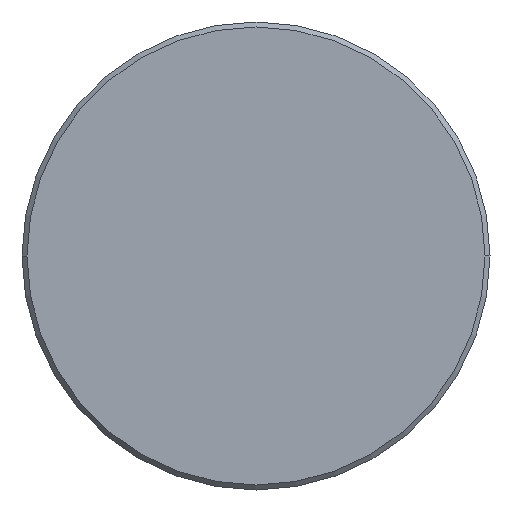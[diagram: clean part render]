
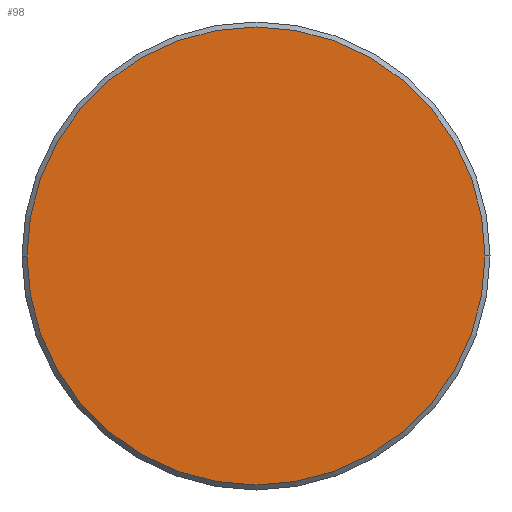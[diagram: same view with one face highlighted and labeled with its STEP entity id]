
A CAD part, left-side view. The second image highlights one B-rep face of the part: STEP entity #98.
In plain terms, the highlighted planar face has unit normal (-1, 0, 0).
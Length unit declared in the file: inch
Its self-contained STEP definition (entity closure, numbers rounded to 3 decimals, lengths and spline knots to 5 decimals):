
#17 = EDGE_CURVE ( 'NONE', #281, #277, #132, .T. ) ;
#42 = CARTESIAN_POINT ( 'NONE',  ( 0., -0.1835, 0. ) ) ;
#52 = CARTESIAN_POINT ( 'NONE',  ( 0., 0., 0. ) ) ;
#69 = CARTESIAN_POINT ( 'NONE',  ( 0., 0., 0. ) ) ;
#79 = AXIS2_PLACEMENT_3D ( 'NONE', #52, #197, #269 ) ;
#89 = AXIS2_PLACEMENT_3D ( 'NONE', #69, #121, #234 ) ;
#96 = ORIENTED_EDGE ( 'NONE', *, *, #17, .T. ) ;
#98 = ADVANCED_FACE ( 'NONE', ( #356 ), #146, .T. ) ;
#101 = CARTESIAN_POINT ( 'NONE',  ( 0., 0.1835, 0. ) ) ;
#121 = DIRECTION ( 'NONE',  ( -1., 0., 0. ) ) ;
#132 = CIRCLE ( 'NONE', #79, 0.1835 ) ;
#133 = CARTESIAN_POINT ( 'NONE',  ( 0., 0., 0. ) ) ;
#146 = PLANE ( 'NONE',  #89 ) ;
#192 = CIRCLE ( 'NONE', #246, 0.1835 ) ;
#197 = DIRECTION ( 'NONE',  ( -1., 0., 0. ) ) ;
#230 = EDGE_LOOP ( 'NONE', ( #368, #96 ) ) ;
#234 = DIRECTION ( 'NONE',  ( 0., -1., 0. ) ) ;
#246 = AXIS2_PLACEMENT_3D ( 'NONE', #133, #365, #265 ) ;
#265 = DIRECTION ( 'NONE',  ( 0., -1., 0. ) ) ;
#269 = DIRECTION ( 'NONE',  ( 0., -1., 0. ) ) ;
#277 = VERTEX_POINT ( 'NONE', #101 ) ;
#281 = VERTEX_POINT ( 'NONE', #42 ) ;
#312 = EDGE_CURVE ( 'NONE', #277, #281, #192, .T. ) ;
#356 = FACE_OUTER_BOUND ( 'NONE', #230, .T. ) ;
#365 = DIRECTION ( 'NONE',  ( -1., 0., 0. ) ) ;
#368 = ORIENTED_EDGE ( 'NONE', *, *, #312, .T. ) ;
